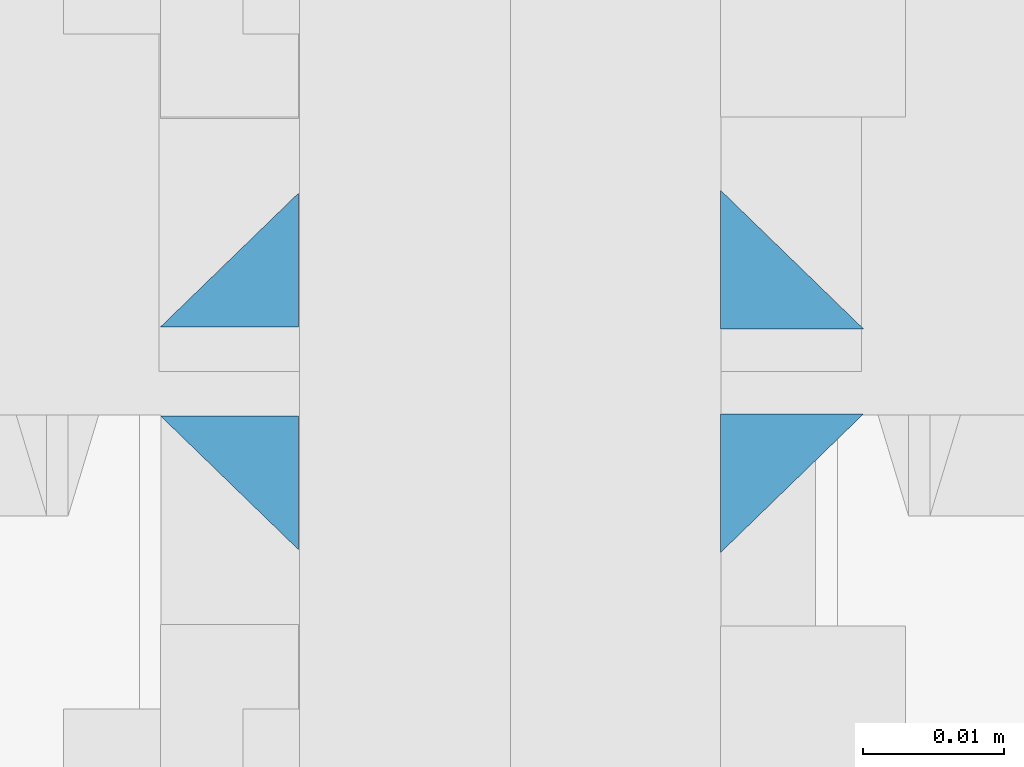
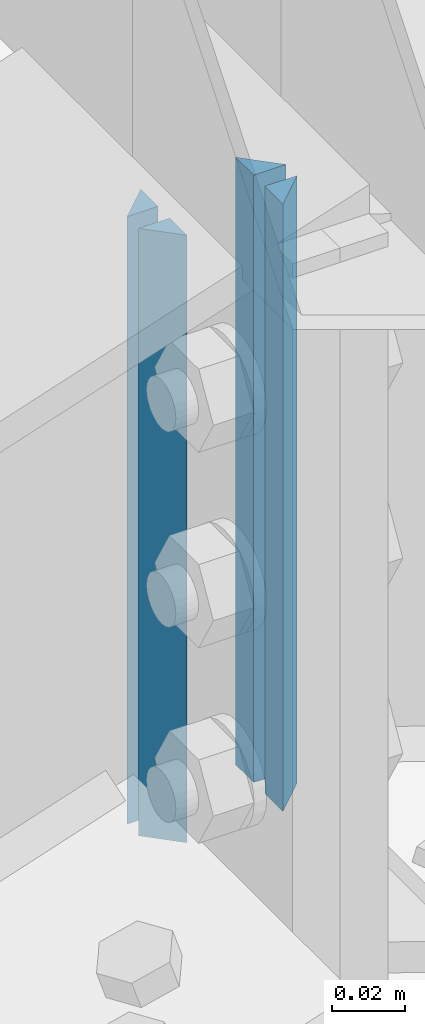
# One storey, part 20 of 53: 6 fasteners.
"""IFC4 building model written with IfcOpenShell, lengths in metres."""

from ifc_helpers import new_model, si_unit, frame, origin_with_axes, place, context, project, spatial, polyline, outline, extrude, type_object, element, save


model = new_model("IFC4")

# Units and contexts
model_context = context("Model", 3, precision=1e-05, world=origin_with_axes())
ifc_project = project(units=[si_unit("LENGTHUNIT", "METRE"), si_unit("AREAUNIT", "SQUARE_METRE"), si_unit("VOLUMEUNIT", "CUBIC_METRE"), si_unit("MASSUNIT", "GRAM", prefix="KILO"), si_unit("TIMEUNIT", "SECOND"), si_unit("PLANEANGLEUNIT", "RADIAN"), si_unit("SOLIDANGLEUNIT", "STERADIAN"), si_unit("THERMODYNAMICTEMPERATUREUNIT", "DEGREE_CELSIUS")], contexts=[model_context])

# Site, building, storey
placement_1 = place(None, origin_with_axes())
site = spatial("IfcSite", under=ifc_project, at=placement_1, Name="Italia", CompositionType="ELEMENT")
building = spatial("IfcBuilding", under=site, at=placement_1, Name="Capannone", CompositionType="ELEMENT")
storey_placement = place(None, frame((0.0, 0.0, 5.550000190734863), z_axis=(0.0, 0.0, 1.0), x_axis=(1.0, 0.0, 0.0)))
storey = spatial("IfcBuildingStorey", under=building, at=storey_placement, Name="Storey 1", CompositionType="ELEMENT", Elevation=5.550000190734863)

# Fasteners
fastener_type_1 = type_object("IfcFastenerType", Name="Collegamenti -1142_-1128 -1143_-1130 -1144_-1132 -1145_-1134 -1146_-1136 -1147_-1138", PredefinedType="WELD")
placement_2 = place(placement_1, origin_with_axes())
fastener_1_placement = place(placement_2, origin_with_axes())
element("IfcFastener", 1, at=fastener_1_placement, inside=storey, type_object=fastener_type_1, Name="Collegamenti -1142_-1128 -1143_-1130 -1144_-1132 -1145_-1134 -1146_-1136 -1147_-1138", context=model_context, shape_type="SweptSolid", body=[
    extrude(outline(polyline([(0.0, 0.0), (0.00986862, 0.0101738), (0.00986862, 0.0), (0.0, 0.0)])), frame((7.01495, 14.9871, 8.07243), z_axis=(0.0, 0.0, -1.0), x_axis=(0.0, 1.0, 0.0)), (0.0, 0.0, 1.0), 0.202095),
])
fastener_type_2 = type_object("IfcFastenerType", Name="Collegamenti -1142_-1128 -1143_-1130 -1144_-1132 -1145_-1134 -1146_-1136 -1147_-1138", PredefinedType="WELD")
fastener_2_placement = place(placement_2, origin_with_axes())
element("IfcFastener", 2, at=fastener_2_placement, inside=storey, type_object=fastener_type_2, Name="Collegamenti -1142_-1128 -1143_-1130 -1144_-1132 -1145_-1134 -1146_-1136 -1147_-1138", context=model_context, shape_type="SweptSolid", body=[
    extrude(outline(polyline([(0.0, 0.0), (-0.00986862, -0.0101738), (-0.00986862, 0.0), (0.0, 0.0)])), frame((7.01495, 15.0129, 7.87034), z_axis=(0.0, 0.0, 1.0), x_axis=(0.0, 1.0, 0.0)), (0.0, 0.0, 1.0), 0.202095),
])
fastener_type_3 = type_object("IfcFastenerType", Name="Collegamenti -1142_-1128 -1143_-1130 -1144_-1132 -1145_-1134 -1146_-1136 -1147_-1138", PredefinedType="WELD")
fastener_3_placement = place(placement_2, origin_with_axes())
element("IfcFastener", 3, at=fastener_3_placement, inside=storey, type_object=fastener_type_3, Name="Collegamenti -1142_-1128 -1143_-1130 -1144_-1132 -1145_-1134 -1146_-1136 -1147_-1138", context=model_context, shape_type="SweptSolid", body=[
    extrude(outline(polyline([(0.0, 0.0), (0.00986862, 0.0101738), (0.00986862, 0.0), (0.0, 0.0)])), frame((7.01495, 14.9871, 8.07243), z_axis=(0.0, 0.0, -1.0), x_axis=(0.0, 1.0, 0.0)), (0.0, 0.0, 1.0), 0.202095),
])
fastener_type_4 = type_object("IfcFastenerType", Name="Collegamenti -1142_-1128 -1143_-1130 -1144_-1132 -1145_-1134 -1146_-1136 -1147_-1138", PredefinedType="WELD")
fastener_4_placement = place(placement_2, origin_with_axes())
element("IfcFastener", 4, at=fastener_4_placement, inside=storey, type_object=fastener_type_4, Name="Collegamenti -1142_-1128 -1143_-1130 -1144_-1132 -1145_-1134 -1146_-1136 -1147_-1138", context=model_context, shape_type="SweptSolid", body=[
    extrude(outline(polyline([(0.0, 0.0), (-0.00986862, -0.0101738), (-0.00986862, 0.0), (0.0, 0.0)])), frame((7.01495, 15.0129, 7.87034), z_axis=(0.0, 0.0, 1.0), x_axis=(0.0, 1.0, 0.0)), (0.0, 0.0, 1.0), 0.202095),
])
fastener_type_5 = type_object("IfcFastenerType", Name="Collegamenti -1142_-1128 -1143_-1130 -1144_-1132 -1145_-1134 -1146_-1136 -1147_-1138", PredefinedType="WELD")
fastener_5_placement = place(placement_2, origin_with_axes())
element("IfcFastener", 5, at=fastener_5_placement, inside=storey, type_object=fastener_type_5, Name="Collegamenti -1142_-1128 -1143_-1130 -1144_-1132 -1145_-1134 -1146_-1136 -1147_-1138", context=model_context, shape_type="SweptSolid", body=[
    extrude(outline(polyline([(0.0, 0.0), (-0.00953197, 0.00982714), (-0.00953197, 0.0), (0.0, 0.0)])), frame((6.98495, 15.0127, 7.87034), z_axis=(0.0, 0.0, 1.0), x_axis=(0.0, 1.0, 0.0)), (0.0, 0.0, 1.0), 0.202095),
])
fastener_type_6 = type_object("IfcFastenerType", Name="Collegamenti -1142_-1128 -1143_-1130 -1144_-1132 -1145_-1134 -1146_-1136 -1147_-1138", PredefinedType="WELD")
fastener_6_placement = place(placement_2, origin_with_axes())
element("IfcFastener", 6, at=fastener_6_placement, inside=storey, type_object=fastener_type_6, Name="Collegamenti -1142_-1128 -1143_-1130 -1144_-1132 -1145_-1134 -1146_-1136 -1147_-1138", context=model_context, shape_type="SweptSolid", body=[
    extrude(outline(polyline([(0.0, 0.0), (0.00953197, -0.00982714), (0.00953197, 0.0), (0.0, 0.0)])), frame((6.98495, 14.9873, 8.07243), z_axis=(0.0, 0.0, -1.0), x_axis=(0.0, 1.0, 0.0)), (0.0, 0.0, 1.0), 0.202095),
])

save(model, "model.ifc")
